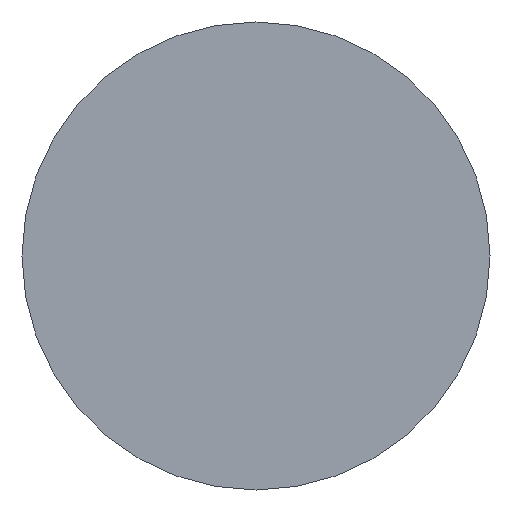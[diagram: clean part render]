
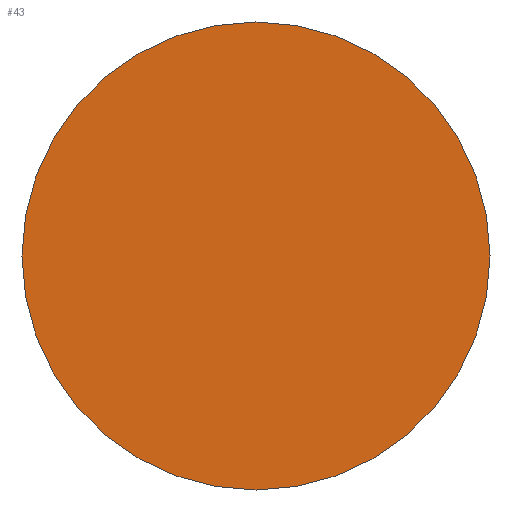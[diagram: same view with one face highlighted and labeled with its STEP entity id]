
A CAD part, left-side view. The second image highlights one B-rep face of the part: STEP entity #43.
In plain terms, the highlighted planar face has unit normal (-1, 0, 0).
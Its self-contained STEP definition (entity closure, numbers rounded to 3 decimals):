
#6 = AXIS2_PLACEMENT_3D ( 'NONE', #251, #115, #172 ) ;
#12 = AXIS2_PLACEMENT_3D ( 'NONE', #217, #138, #147 ) ;
#14 = ORIENTED_EDGE ( 'NONE', *, *, #223, .F. ) ;
#36 = CIRCLE ( 'NONE', #272, 11. ) ;
#40 = CARTESIAN_POINT ( 'NONE',  ( 0., 11., 0. ) ) ;
#43 = ADVANCED_FACE ( 'NONE', ( #57 ), #92, .T. ) ;
#57 = FACE_OUTER_BOUND ( 'NONE', #149, .T. ) ;
#71 = VERTEX_POINT ( 'NONE', #40 ) ;
#75 = DIRECTION ( 'NONE',  ( 1., 0., 0. ) ) ;
#92 = PLANE ( 'NONE',  #6 ) ;
#115 = DIRECTION ( 'NONE',  ( -1., 0., 0. ) ) ;
#127 = CARTESIAN_POINT ( 'NONE',  ( 0., 0., 0. ) ) ;
#138 = DIRECTION ( 'NONE',  ( 1., 0., 0. ) ) ;
#147 = DIRECTION ( 'NONE',  ( 0., 1., 0. ) ) ;
#149 = EDGE_LOOP ( 'NONE', ( #14, #175 ) ) ;
#172 = DIRECTION ( 'NONE',  ( 0., -1., 0. ) ) ;
#175 = ORIENTED_EDGE ( 'NONE', *, *, #186, .F. ) ;
#186 = EDGE_CURVE ( 'NONE', #211, #71, #199, .T. ) ;
#199 = CIRCLE ( 'NONE', #12, 11. ) ;
#211 = VERTEX_POINT ( 'NONE', #213 ) ;
#212 = DIRECTION ( 'NONE',  ( 0., 1., 0. ) ) ;
#213 = CARTESIAN_POINT ( 'NONE',  ( 0., -11., 0. ) ) ;
#217 = CARTESIAN_POINT ( 'NONE',  ( 0., 0., 0. ) ) ;
#223 = EDGE_CURVE ( 'NONE', #71, #211, #36, .T. ) ;
#251 = CARTESIAN_POINT ( 'NONE',  ( 0., 0., 0. ) ) ;
#272 = AXIS2_PLACEMENT_3D ( 'NONE', #127, #75, #212 ) ;
